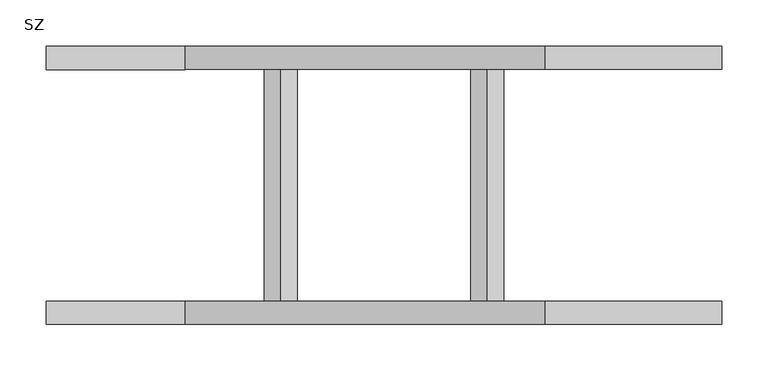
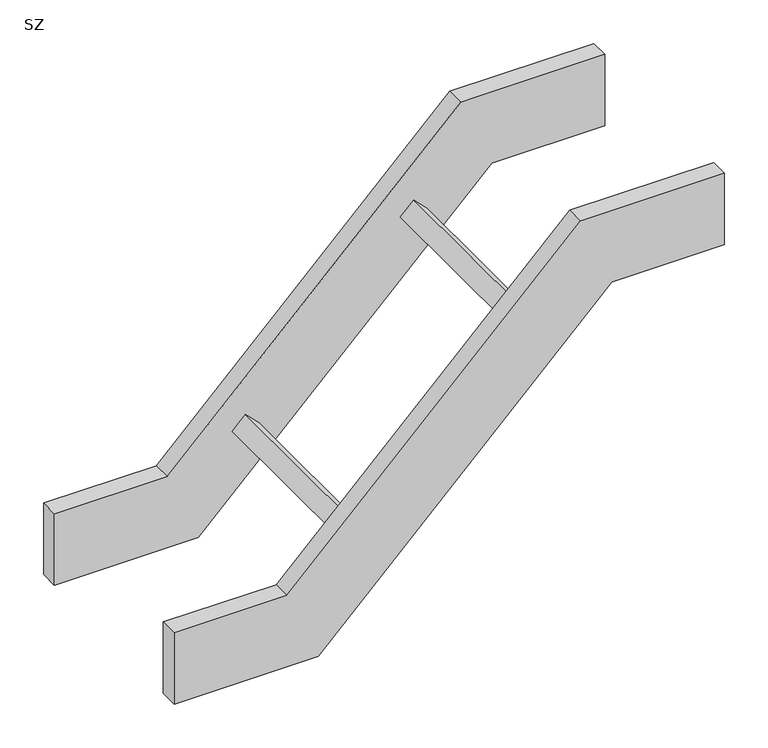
"""IFC4 building model written with IfcOpenShell, lengths in millimetres: cable carrier fitting geometry, IEK_Лестничный_Поворот шарнирный_(угол) : SZ."""

from ifc_helpers import new_model, si_unit, frame, origin, place, context, project, spatial, polyline, outline, extrude, source, transform, mapped, element, save


def sz_96013533(model_context):
    return source(origin(), model_context, "Body", "SweptSolid", [
        extrude(outline(polyline([(-125.0, 12.5), (125.0, 12.5), (125.0, -12.5), (-125.0, -12.5), (-125.0, 12.5)])), frame((296.9848481, 0.0, 296.9848481), z_axis=(0.707106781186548, 0.0, 0.7071067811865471), x_axis=(0.0, -1.0, 0.0)), (0.0, 0.0, 1.0), 25.0),
        extrude(outline(polyline([(-125.0, -12.5), (-125.0, 12.5), (125.0, 12.5), (125.0, -12.5), (-125.0, -12.5)])), frame((74.246212, 0.0, 74.246212), z_axis=(0.707106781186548, 0.0, 0.7071067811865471), x_axis=(0.0, -1.0, 0.0)), (0.0, 0.0, 1.0), 25.0),
        extrude(outline(polyline([(50.0, -170.0), (-50.0, -170.0), (-50.0, 20.7106781), (338.9087297, 409.6194078), (338.9087297, 558.9087297), (438.9087297, 558.9087297), (438.9087297, 368.1980515), (50.0, -20.7106781), (50.0, -170.0)])), frame((0.0, -150.0, 0.0), z_axis=(0.0, 1.0, 0.0), x_axis=(0.0, 0.0, 1.0)), (0.0, 0.0, 1.0), 25.0),
        extrude(outline(polyline([(50.0, -170.0), (-50.0, -170.0), (-50.0, 20.7106781), (338.9087297, 409.6194078), (338.9087297, 558.9087297), (438.9087297, 558.9087297), (438.9087297, 368.1980515), (50.0, -20.7106781), (50.0, -170.0)])), frame((0.0, 125.0, 0.0), z_axis=(0.0, 1.0, 0.0), x_axis=(0.0, 0.0, 1.0)), (0.0, 0.0, 1.0), 25.0),
    ])


if __name__ == "__main__":
    model = new_model("IFC4")
    model_context = context("Model", 3, world=origin())
    ifc_project = project(units=[si_unit("LENGTHUNIT", "METRE", prefix="MILLI")], contexts=[model_context])
    site = spatial("IfcSite", under=ifc_project)
    building = spatial("IfcBuilding", under=site)
    placement = place(None, origin())
    sz_shape = sz_96013533(model_context)
    element("IfcCableCarrierFitting", 1, ObjectType="IEK_Лестничный_Поворот шарнирный_(угол) : SZ", at=placement, inside=building, context=model_context, shape_type="MappedRepresentation", body=[
        mapped(sz_shape, transform((0.0, 0.0, 0.0), x_axis=(1.0, 0.0, 0.0), y_axis=(0.0, 1.0, 0.0), z_axis=(0.0, 0.0, 1.0))),
    ])
    save(model, "model.ifc")
